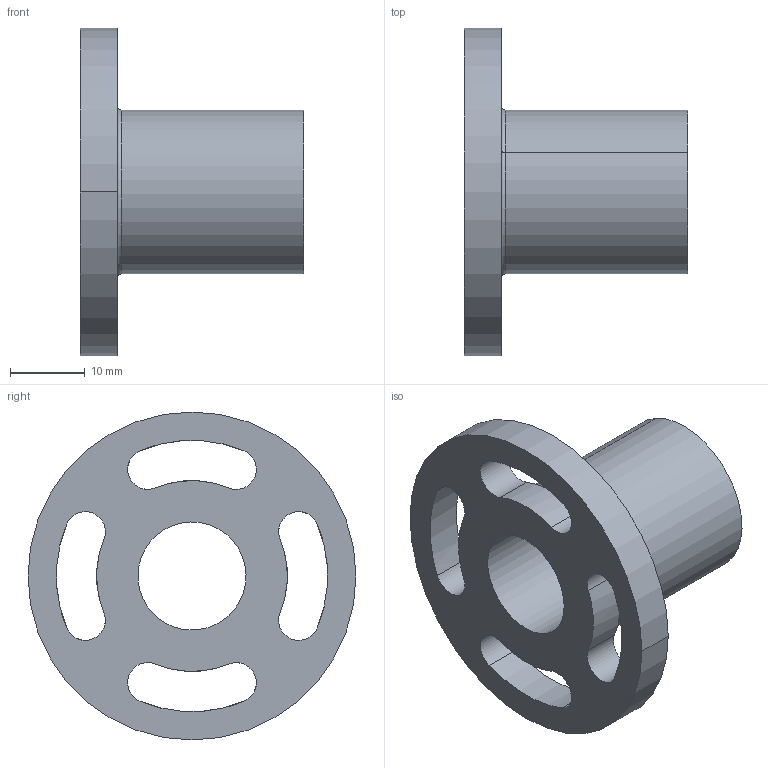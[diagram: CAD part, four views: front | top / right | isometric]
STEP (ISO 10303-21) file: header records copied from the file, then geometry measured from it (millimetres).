
FILE_DESCRIPTION(('CATIA V5 STEP Exchange'),'2;1');
FILE_NAME('C:\Users\aa\Documents\이댈\TM\CTM\CTM14.stp','2020-03-26T08:58:22+00:00',('none'),('none'),'CATIA Version 5 Release 20 SP 7 (IN-10)','CATIA V5 STEP AP203','none');
FILE_SCHEMA(('CONFIG_CONTROL_DESIGN'));
Length unit declared in the file: millimetre
Products named in the file (1): CTM14
Bounding box: 30 x 44 x 44 mm (x, y, z)
Volume: 10383 mm3; surface area: 6598.8 mm2
Topology: 1 solids, 1 shells, 27 faces, 70 edges, 46 vertices
Faces by surface type: cylinder 22, plane 3, torus 2
Entity records: 1110 total; most frequent: CARTESIAN_POINT 428, ORIENTED_EDGE 140, DIRECTION 102, EDGE_CURVE 70, AXIS2_PLACEMENT_3D 54, VERTEX_POINT 46, EDGE_LOOP 38, ADVANCED_FACE 27
